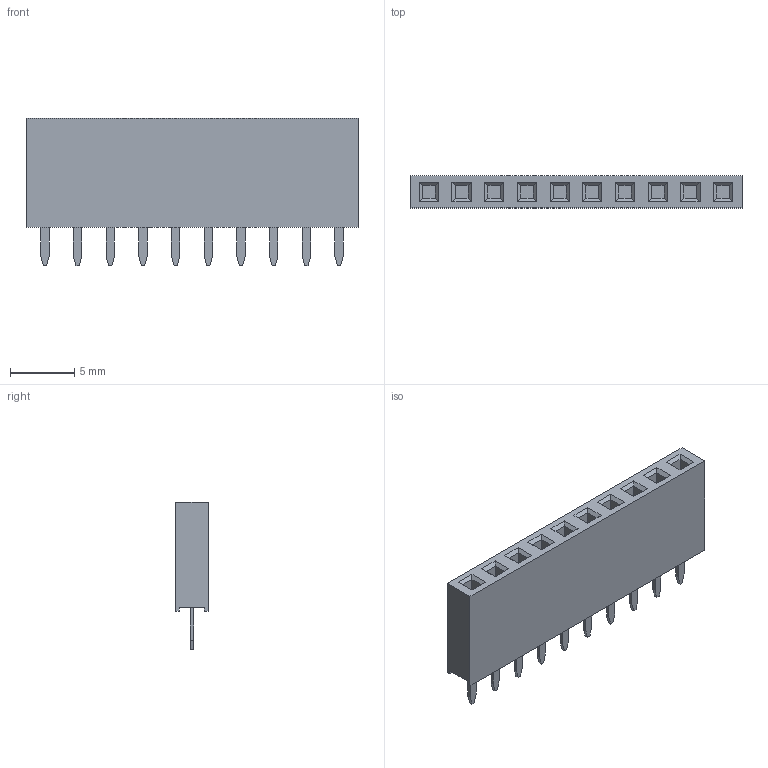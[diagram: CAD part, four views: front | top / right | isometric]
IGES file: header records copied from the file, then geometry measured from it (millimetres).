
Start section: SolidWorks IGES file using analytic representation for surfaces
Global section: file name: C:\DEV\Drawrings\3D_Models\production_parts\connectors\1X10_PTH\iges\1X10_PTH.IGS; native system: SolidWorks 2014; preprocessor: SolidWorks 2014; author: Evan.Spitler; date: 150601.121327; units: millimetre
Bounding box: 25.8 x 2.5 x 11.5 mm (x, y, z)
Surface area: 768.4 mm2 (no closed solid volume)
Topology: 0 solids, 0 shells, 180 faces, 808 edges, 808 vertices
Faces by surface type: bspline 180
